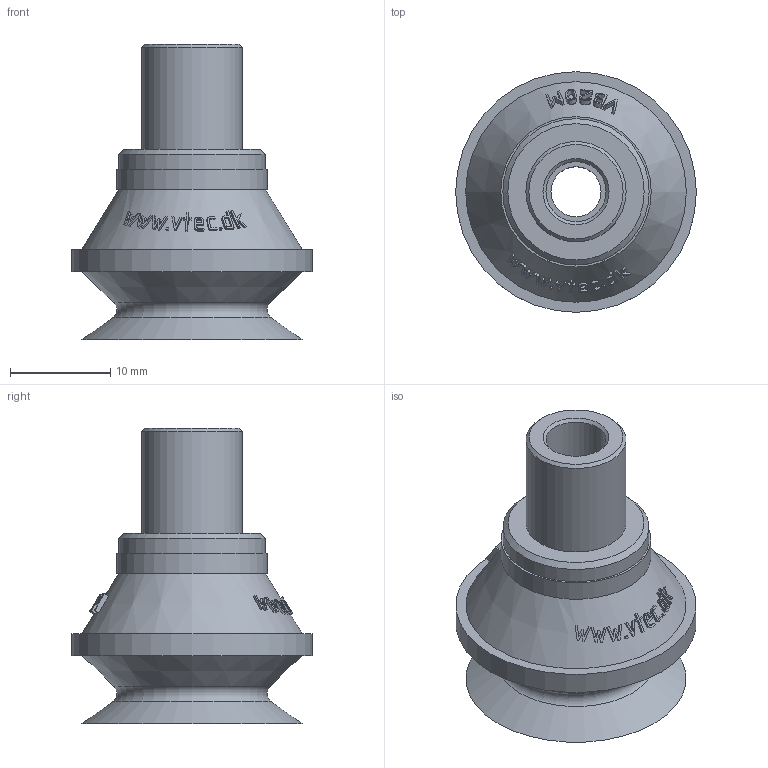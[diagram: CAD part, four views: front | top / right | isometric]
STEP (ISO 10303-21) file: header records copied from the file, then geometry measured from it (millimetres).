
FILE_DESCRIPTION( ( 'STEP AP203' ), '1' );
FILE_NAME( 'C:/撲啗紫賊-02/3D-蘋驍煎斜/Vacuum Pad/VB-M series/VB20M.stp', '2006-04-24T11:42:11', ( ' ' ), ( ' ' ), 'XStep 1.0', ' ', ' ' );
FILE_SCHEMA( ( 'CONFIG_CONTROL_DESIGN) ( )' ) );
Length unit declared in the file: metre
Products named in the file (1): 1
Bounding box: 24 x 24 x 29.5 mm (x, y, z)
Volume: 2257.7 mm3; surface area: 3481.8 mm2
Topology: 1 solids, 1 shells, 193 faces, 474 edges, 314 vertices
Faces by surface type: bspline 138, cone 31, plane 12, cylinder 9, torus 3
Full cylindrical faces by diameter (mm): 5 x2, 6 x2, 8.5 x1, 10 x1, 14.6 x1, 15 x1, 24 x1
Entity records: 9920 total; most frequent: CARTESIAN_POINT 6402, ORIENTED_EDGE 892, EDGE_CURVE 446, VERTEX_POINT 310, B_SPLINE_CURVE_WITH_KNOTS 302, DIRECTION 290, EDGE_LOOP 250, FACE_OUTER_BOUND 207
